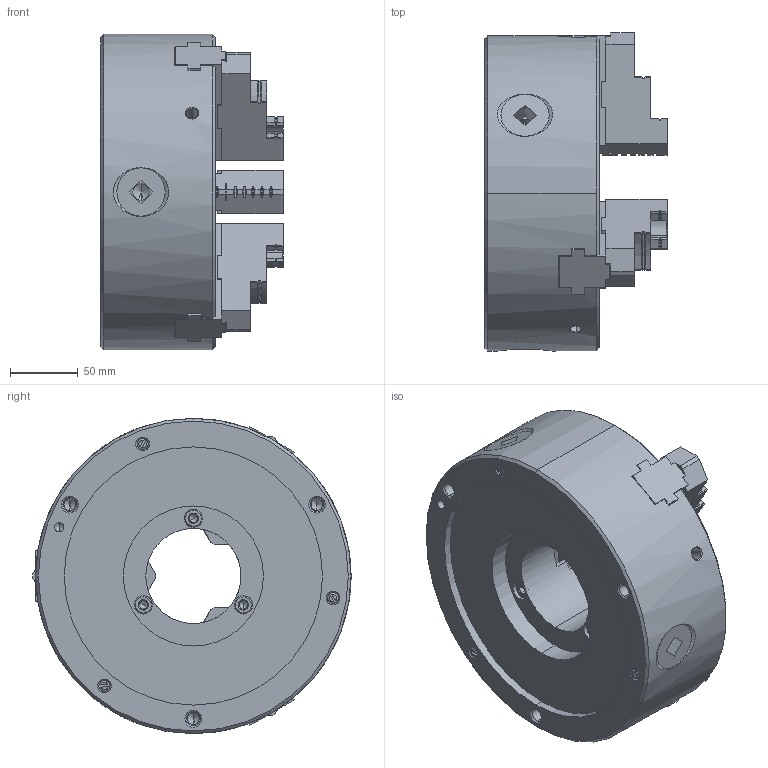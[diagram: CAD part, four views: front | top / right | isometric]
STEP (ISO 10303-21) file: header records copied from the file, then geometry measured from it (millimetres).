
FILE_DESCRIPTION (( 'STEP AP214' ), '1' );
FILE_NAME ('JN09T 61S2099208 ASSY.STEP', '2023-05-18T00:05:38', ( '' ), ( '' ), 'SwSTEP 2.0', 'SolidWorks 2020', '' );
FILE_SCHEMA (( 'AUTOMOTIVE_DESIGN' ));
Length unit declared in the file: millimetre
Products named in the file (1): JN09T 61S2099208 ASSY
Bounding box: 134 x 234 x 232 mm (x, y, z)
Volume: 3240331.9 mm3; surface area: 259061.9 mm2
Topology: 1 solids, 4 shells, 1390 faces, 3815 edges, 2460 vertices
Faces by surface type: plane 814, cylinder 221, bspline 182, cone 156, torus 13, sphere 4
Entity records: 66587 total; most frequent: CARTESIAN_POINT 17597, ORIENTED_EDGE 7536, DIRECTION 6130, EDGE_CURVE 3768, VECTOR 2464, LINE 2464, VERTEX_POINT 2457, AXIS2_PLACEMENT_3D 1833
